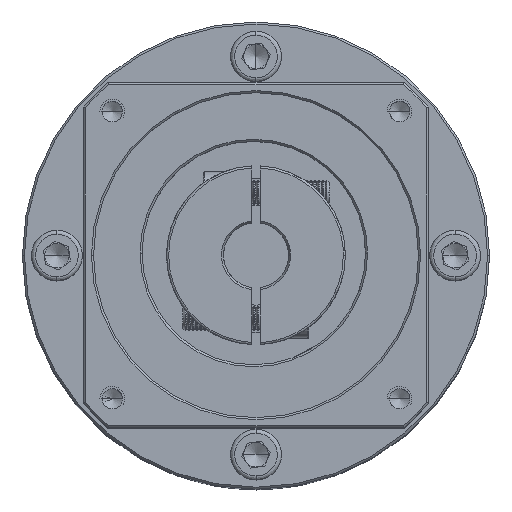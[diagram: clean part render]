
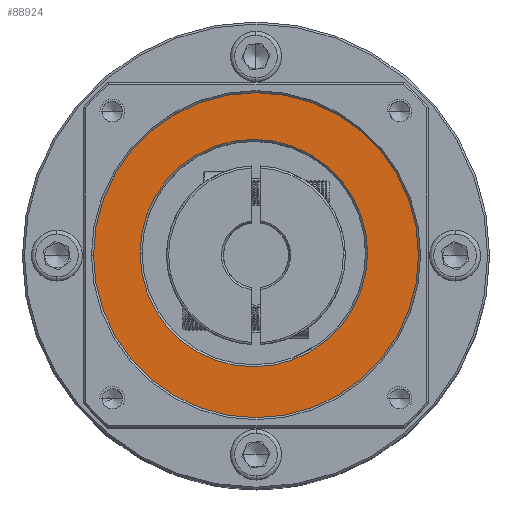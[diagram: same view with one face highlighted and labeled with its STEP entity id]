
A CAD part, top view. The second image highlights one B-rep face of the part: STEP entity #88924.
In plain terms, the highlighted planar face has unit normal (0, 0, 1).
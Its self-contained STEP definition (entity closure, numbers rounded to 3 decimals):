
#2703 = DIRECTION ( 'NONE',  ( 0., 0., 1. ) ) ;
#3999 = FACE_OUTER_BOUND ( 'NONE', #97261, .T. ) ;
#4275 = DIRECTION ( 'NONE',  ( 1., 0., 0. ) ) ;
#6670 = CARTESIAN_POINT ( 'NONE',  ( 89.584, -28.711, 17.397 ) ) ;
#7079 = VERTEX_POINT ( 'NONE', #72212 ) ;
#10384 = VERTEX_POINT ( 'NONE', #99242 ) ;
#12688 = AXIS2_PLACEMENT_3D ( 'NONE', #75440, #85136, #55082 ) ;
#13461 = ORIENTED_EDGE ( 'NONE', *, *, #44703, .T. ) ;
#20398 = VERTEX_POINT ( 'NONE', #25175 ) ;
#23167 = CIRCLE ( 'NONE', #12688, 40. ) ;
#23321 = EDGE_CURVE ( 'NONE', #10384, #73895, #23167, .T. ) ;
#25175 = CARTESIAN_POINT ( 'NONE',  ( 117.584, -28.711, 17.397 ) ) ;
#26633 = CARTESIAN_POINT ( 'NONE',  ( 130.126, -29.245, 17.397 ) ) ;
#29898 = ORIENTED_EDGE ( 'NONE', *, *, #73761, .T. ) ;
#36022 = ORIENTED_EDGE ( 'NONE', *, *, #23321, .T. ) ;
#37790 = AXIS2_PLACEMENT_3D ( 'NONE', #111654, #83663, #43869 ) ;
#43724 = PLANE ( 'NONE',  #100452 ) ;
#43869 = DIRECTION ( 'NONE',  ( 1., 0., 0. ) ) ;
#44703 = EDGE_CURVE ( 'NONE', #73895, #10384, #95071, .T. ) ;
#46200 = ORIENTED_EDGE ( 'NONE', *, *, #101496, .T. ) ;
#49082 = CIRCLE ( 'NONE', #37790, 28. ) ;
#50639 = DIRECTION ( 'NONE',  ( 1., 0., 0. ) ) ;
#55082 = DIRECTION ( 'NONE',  ( 1., 0., 0. ) ) ;
#67752 = FACE_BOUND ( 'NONE', #89334, .T. ) ;
#72212 = CARTESIAN_POINT ( 'NONE',  ( 61.584, -28.711, 17.397 ) ) ;
#73761 = EDGE_CURVE ( 'NONE', #7079, #20398, #86073, .T. ) ;
#73895 = VERTEX_POINT ( 'NONE', #26633 ) ;
#75440 = CARTESIAN_POINT ( 'NONE',  ( 90.126, -29.245, 17.397 ) ) ;
#82608 = DIRECTION ( 'NONE',  ( 1., 0., 0. ) ) ;
#83663 = DIRECTION ( 'NONE',  ( 0., 0., -1. ) ) ;
#85136 = DIRECTION ( 'NONE',  ( 0., 0., 1. ) ) ;
#86073 = CIRCLE ( 'NONE', #106640, 28. ) ;
#88924 = ADVANCED_FACE ( 'NONE', ( #3999, #67752 ), #43724, .T. ) ;
#89334 = EDGE_LOOP ( 'NONE', ( #46200, #29898 ) ) ;
#90346 = DIRECTION ( 'NONE',  ( 0., 0., 1. ) ) ;
#92347 = DIRECTION ( 'NONE',  ( 0., 0., -1. ) ) ;
#92800 = AXIS2_PLACEMENT_3D ( 'NONE', #98957, #2703, #50639 ) ;
#95071 = CIRCLE ( 'NONE', #92800, 40. ) ;
#97261 = EDGE_LOOP ( 'NONE', ( #13461, #36022 ) ) ;
#98957 = CARTESIAN_POINT ( 'NONE',  ( 90.126, -29.245, 17.397 ) ) ;
#99242 = CARTESIAN_POINT ( 'NONE',  ( 50.126, -29.245, 17.397 ) ) ;
#100452 = AXIS2_PLACEMENT_3D ( 'NONE', #111516, #90346, #4275 ) ;
#101496 = EDGE_CURVE ( 'NONE', #20398, #7079, #49082, .T. ) ;
#106640 = AXIS2_PLACEMENT_3D ( 'NONE', #6670, #92347, #82608 ) ;
#111516 = CARTESIAN_POINT ( 'NONE',  ( 90.126, -29.245, 17.397 ) ) ;
#111654 = CARTESIAN_POINT ( 'NONE',  ( 89.584, -28.711, 17.397 ) ) ;
